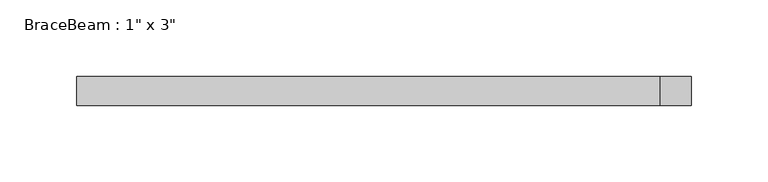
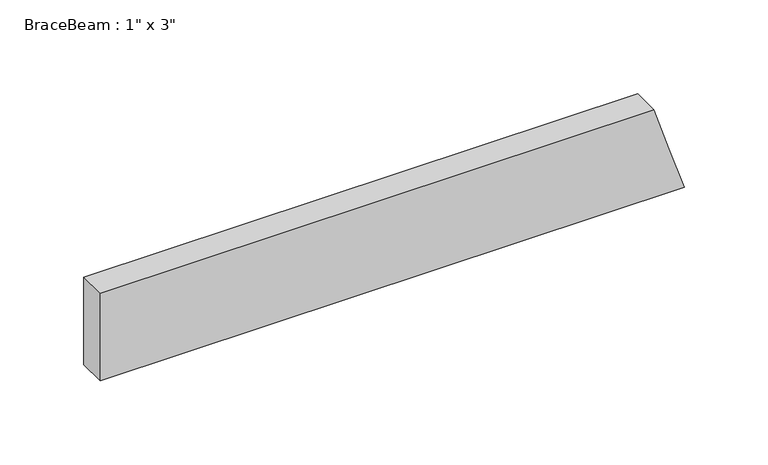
"""IFC4 building model written with IfcOpenShell, lengths in millimetres: beam geometry."""

from ifc_helpers import new_model, si_unit, origin, place, context, project, spatial, faceted_brep, source, transform, mapped, element, save


def beam_220cac48(model_context):
    return source(origin(), model_context, "Body", "Brep", [
        faceted_brep([(-196.3442892, -9.525, -31.75), (-196.3442892, 9.525, -31.75), (205.0587666, 9.525, -31.75), (205.0587666, -9.525, -31.75), (-196.3442892, 9.525, 31.75), (184.3330722, 9.525, 31.75), (194.6959194, 9.525, 0.0), (-196.3442892, -9.525, 31.75), (184.3330722, -9.525, 31.75), (194.6959194, -9.525, 0.0)], [[[0, 1, 2, 3]], [[1, 4, 5, 6, 2]], [[4, 7, 8, 5]], [[7, 0, 3, 9, 8]], [[7, 4, 1, 0]], [[5, 8, 9, 3, 2, 6]]]),
    ])


if __name__ == "__main__":
    model = new_model("IFC4")
    model_context = context("Model", 3, world=origin())
    ifc_project = project(units=[si_unit("LENGTHUNIT", "METRE", prefix="MILLI")], contexts=[model_context])
    site = spatial("IfcSite", under=ifc_project)
    building = spatial("IfcBuilding", under=site)
    placement = place(None, origin())
    beam_shape = beam_220cac48(model_context)
    element("IfcBeam", 1, ObjectType="BraceBeam : 1\" x 3\"", at=placement, inside=building, context=model_context, shape_type="MappedRepresentation", body=[
        mapped(beam_shape, transform((0.0, 0.0, 0.0), x_axis=(1.0, 0.0, 0.0), y_axis=(0.0, 1.0, 0.0), z_axis=(0.0, 0.0, 1.0))),
    ])
    save(model, "model.ifc")
